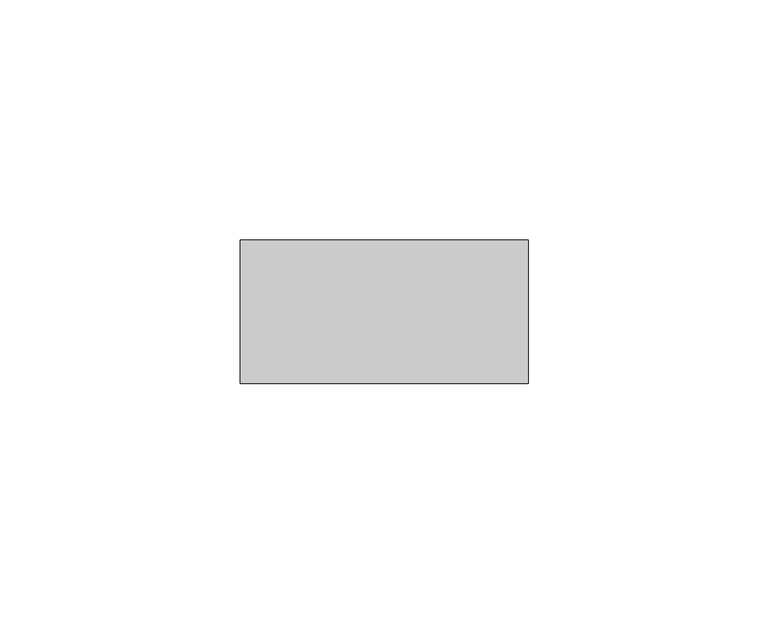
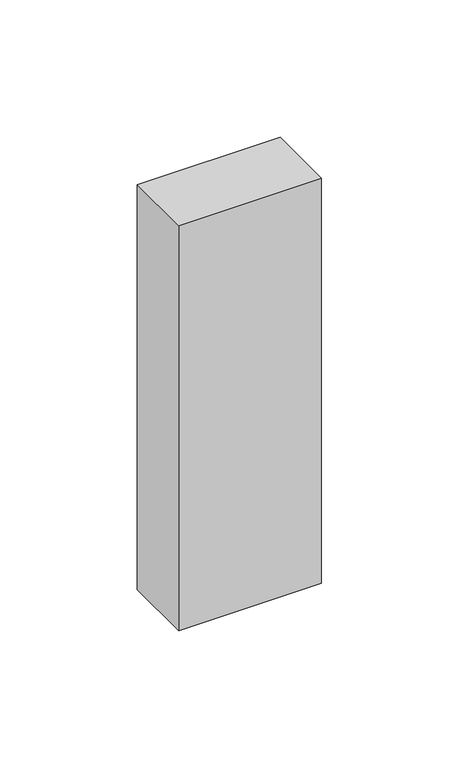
"""IFC4 building model written with IfcOpenShell, lengths in millimetres: member geometry, Прямоугольный импост : Квадрат 30 мм."""

from ifc_helpers import new_model, si_unit, frame, origin, place, context, project, spatial, polyline, outline, extrude, source, transform, mapped, element, save


def member_56a4565e(model_context):
    return source(origin(), model_context, "Body", "SweptSolid", [
        extrude(outline(polyline([(30.0, 15.0), (30.0, -15.0), (-30.0, -15.0), (-30.0, 15.0), (30.0, 15.0)])), frame((0.0, 0.0, -180.0), z_axis=(0.0, 0.0, 1.0), x_axis=(1.0, 0.0, 0.0)), (0.0, 0.0, 1.0), 180.0),
    ])


if __name__ == "__main__":
    model = new_model("IFC4")
    model_context = context("Model", 3, world=origin())
    ifc_project = project(units=[si_unit("LENGTHUNIT", "METRE", prefix="MILLI")], contexts=[model_context])
    site = spatial("IfcSite", under=ifc_project)
    building = spatial("IfcBuilding", under=site)
    placement = place(None, origin())
    member_shape = member_56a4565e(model_context)
    element("IfcMember", 1, ObjectType="Прямоугольный импост : Квадрат 30 мм", at=placement, inside=building, context=model_context, shape_type="MappedRepresentation", body=[
        mapped(member_shape, transform((0.0, 0.0, 0.0), x_axis=(1.0, 0.0, 0.0), y_axis=(0.0, 1.0, 0.0), z_axis=(0.0, 0.0, 1.0))),
    ])
    save(model, "model.ifc")
